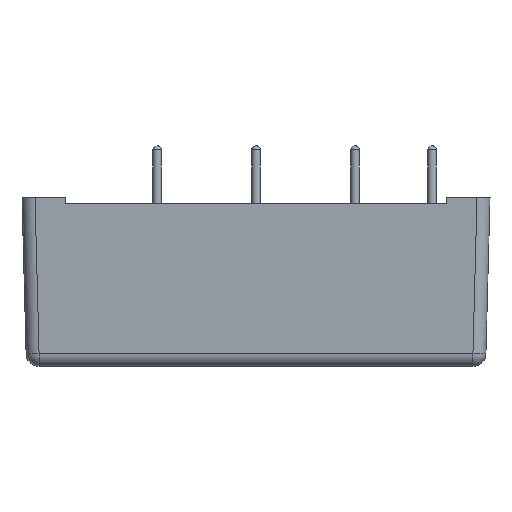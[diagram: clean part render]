
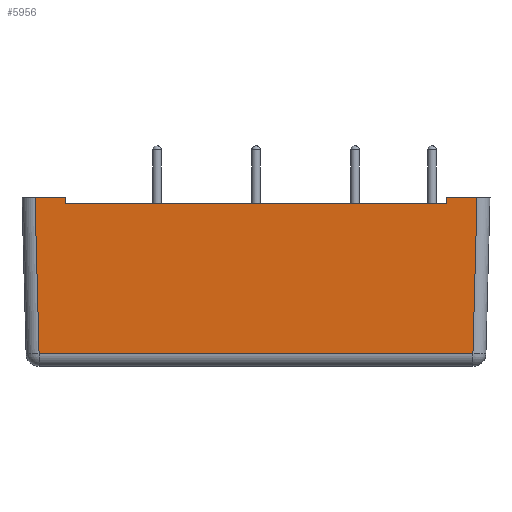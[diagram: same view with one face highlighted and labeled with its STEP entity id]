
A CAD part, front view. The second image highlights one B-rep face of the part: STEP entity #5956.
In plain terms, the highlighted planar face has unit normal (0, -1, -0.026).
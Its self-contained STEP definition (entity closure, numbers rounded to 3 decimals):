
#435=FACE_OUTER_BOUND('',#767,.T.);
#767=EDGE_LOOP('',(#4864,#4865,#4866,#4867,#4868,#4869,#4870,#4871));
#1357=LINE('',#9108,#2067);
#1412=LINE('',#9265,#2122);
#1413=LINE('',#9270,#2123);
#1420=LINE('',#9284,#2130);
#1424=LINE('',#9291,#2134);
#1425=LINE('',#9293,#2135);
#1426=LINE('',#9295,#2136);
#1427=LINE('',#9296,#2137);
#2067=VECTOR('',#7480,50.093);
#2122=VECTOR('',#7637,18.052);
#2123=VECTOR('',#7642,18.052);
#2130=VECTOR('',#7653,3.519);
#2134=VECTOR('',#7659,3.519);
#2135=VECTOR('',#7660,0.7);
#2136=VECTOR('',#7661,44.);
#2137=VECTOR('',#7662,0.7);
#2664=VERTEX_POINT('',#9101);
#2666=VERTEX_POINT('',#9106);
#2716=VERTEX_POINT('',#9261);
#2719=VERTEX_POINT('',#9268);
#2724=VERTEX_POINT('',#9283);
#2726=VERTEX_POINT('',#9290);
#2727=VERTEX_POINT('',#9292);
#2728=VERTEX_POINT('',#9294);
#3378=EDGE_CURVE('',#2666,#2664,#1357,.T.);
#3457=EDGE_CURVE('',#2664,#2716,#1412,.T.);
#3459=EDGE_CURVE('',#2719,#2666,#1413,.T.);
#3466=EDGE_CURVE('',#2724,#2716,#1420,.T.);
#3470=EDGE_CURVE('',#2719,#2726,#1424,.T.);
#3471=EDGE_CURVE('',#2727,#2726,#1425,.F.);
#3472=EDGE_CURVE('',#2727,#2728,#1426,.T.);
#3473=EDGE_CURVE('',#2728,#2724,#1427,.T.);
#4864=ORIENTED_EDGE('',*,*,#3457,.F.);
#4865=ORIENTED_EDGE('',*,*,#3378,.F.);
#4866=ORIENTED_EDGE('',*,*,#3459,.F.);
#4867=ORIENTED_EDGE('',*,*,#3470,.T.);
#4868=ORIENTED_EDGE('',*,*,#3471,.F.);
#4869=ORIENTED_EDGE('',*,*,#3472,.T.);
#4870=ORIENTED_EDGE('',*,*,#3473,.T.);
#4871=ORIENTED_EDGE('',*,*,#3466,.T.);
#5363=PLANE('',#6342);
#5956=ADVANCED_FACE('',(#435),#5363,.T.);
#6342=AXIS2_PLACEMENT_3D('',#9289,#7657,#7658);
#7480=DIRECTION('',(-1.,0.,0.));
#7637=DIRECTION('',(-0.026,-0.026,0.999));
#7642=DIRECTION('',(-0.026,0.026,-0.999));
#7653=DIRECTION('',(-1.,0.,0.));
#7657=DIRECTION('center_axis',(0.,-1.,
-0.026));
#7658=DIRECTION('ref_axis',(0.,0.026,-1.));
#7659=DIRECTION('',(-1.,0.,0.));
#7660=DIRECTION('',(0.,0.026,-1.));
#7661=DIRECTION('',(-1.,0.,0.));
#7662=DIRECTION('',(0.,-0.026,1.));
#9101=CARTESIAN_POINT('',(-25.046,-36.546,1.461));
#9106=CARTESIAN_POINT('',(25.046,-36.546,1.461));
#9108=CARTESIAN_POINT('',(13.5,-36.546,1.461));
#9261=CARTESIAN_POINT('',(-25.519,-37.018,19.5));
#9265=CARTESIAN_POINT('',(-24.991,-36.491,-0.648));
#9268=CARTESIAN_POINT('',(25.519,-37.018,19.5));
#9270=CARTESIAN_POINT('',(24.984,-36.484,-0.909));
#9283=CARTESIAN_POINT('',(-22.,-37.018,19.5));
#9284=CARTESIAN_POINT('',(-23.756,-37.018,19.5));
#9289=CARTESIAN_POINT('Origin',(27.,-36.508,0.006));
#9290=CARTESIAN_POINT('',(22.,-37.018,19.5));
#9291=CARTESIAN_POINT('',(26.256,-37.018,19.5));
#9292=CARTESIAN_POINT('',(22.,-37.,18.8));
#9293=CARTESIAN_POINT('',(22.,-37.,18.8));
#9294=CARTESIAN_POINT('',(-22.,-37.,18.8));
#9295=CARTESIAN_POINT('',(27.,-37.,18.8));
#9296=CARTESIAN_POINT('',(-22.,-37.,18.793));
